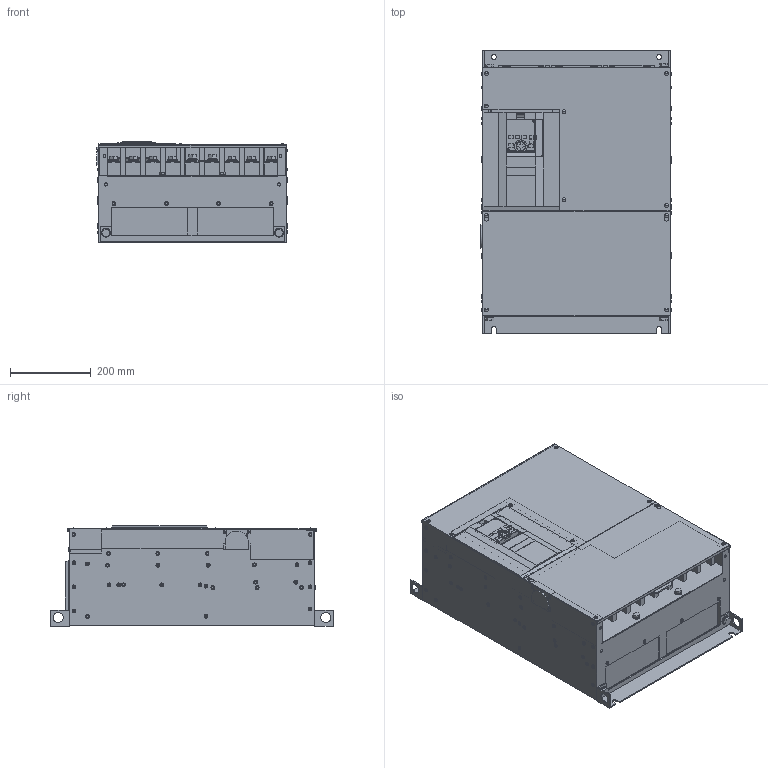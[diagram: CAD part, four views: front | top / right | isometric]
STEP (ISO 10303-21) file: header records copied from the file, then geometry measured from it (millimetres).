
FILE_DESCRIPTION((''),'2;1');
FILE_NAME('3D-INV-A8-01_14_ASM','2014-01-24T',('UJ56049'),(''),'PRO/ENGINEER BY PARAMETRIC TECHNOLOGY CORPORATION, 2011490','PRO/ENGINEER BY PARAMETRIC TECHNOLOGY CORPORATION, 2011490','');
FILE_SCHEMA(('CONFIG_CONTROL_DESIGN'));
Products named in the file (31): 3D-BASE-A8-01_14; 3D-WAKU-A8-01_14_ASM; 3D-ASHI_UPR-A8-01_14; 3D-BOLT-SW-PW-M10X25_; 3D-ASHI_UPR-BOLT-A8-01_14_ASM; 3D-ASHI_LWR-A8-01_14; 3D-ASHI_LWR-BOLT-A8-01_14_ASM; 3D-BUSH-A8; 3D-BUSH-A8_ASM; 3D-FAN-120; 3D-FAN_ASSY-A8-01_14_ASM; 3D-FAN_COV-A8; 3D-FAN_COV-A8-01_14_ASM; 3D-BOLT-SW-PW-P-M8X16_; 3D-TE_NEJI-M4X8_; 3D-TE_COV-R1S1_; 3D-TE_ASSY-R1S1_ASM; 3D-TA-A8; 3D-A8-TA_ASM; 3D-DOT-TAN_P_P-A8-01_14; 3D-BOLT-SW-PW-M12X30_; 3D-TE_BOLT-A8-01_14_ASM; 3D-CA_COVER-A8; 3D-DU_ASSY-A8; 3D-IF_COV-A80; 3D-SC-PN-BD-M4X10-BZN-A8; 3D-CA_COV-A8_ASM; 3D-COV_LWR-A8-01_14; 3D-COV_LWR-NEJI-A8-01_14; 3D-COV_LWR-NEJI-A8-01_14_ASM; 3D-INV-A8-01_14_ASM
Assembly tree (50 placements, depth 3):
  3D-INV-A8-01_14_ASM
    3D-WAKU-A8-01_14_ASM
      3D-BASE-A8-01_14
    3D-ASHI_UPR-A8-01_14
    3D-ASHI_UPR-BOLT-A8-01_14_ASM
      3D-BOLT-SW-PW-M10X25_  x2
    3D-ASHI_LWR-A8-01_14
    3D-ASHI_LWR-BOLT-A8-01_14_ASM
      3D-BOLT-SW-PW-M10X25_  x2
    3D-BUSH-A8_ASM
      3D-BUSH-A8
    3D-FAN_ASSY-A8-01_14_ASM
      3D-FAN-120  x3
    3D-FAN_COV-A8-01_14_ASM
      3D-FAN_COV-A8  x3
    3D-BOLT-SW-PW-P-M8X16_  x2
    3D-TE_ASSY-R1S1_ASM
      3D-TE_NEJI-M4X8_  x4
      3D-TE_COV-R1S1_
    3D-A8-TA_ASM
      3D-TA-A8
    3D-DOT-TAN_P_P-A8-01_14
    3D-TE_BOLT-A8-01_14_ASM
      3D-BOLT-SW-PW-M12X30_  x9
    3D-CA_COV-A8_ASM
      3D-CA_COVER-A8
      3D-DU_ASSY-A8
      3D-IF_COV-A80
      3D-SC-PN-BD-M4X10-BZN-A8  x2
    3D-COV_LWR-A8-01_14
    3D-COV_LWR-NEJI-A8-01_14_ASM
      3D-COV_LWR-NEJI-A8-01_14
Bounding box: 471.7 x 700 x 250.3 mm (x, y, z)
Volume: 58800606.1 mm3; surface area: 2975048.1 mm2
Topology: 43 solids, 68 shells, 4968 faces, 13188 edges, 8581 vertices
Faces by surface type: plane 3254, cylinder 1320, torus 220, sphere 96, cone 78
Entity records: 118786 total; most frequent: DIRECTION 20624, CARTESIAN_POINT 20537, ORIENTED_EDGE 19916, EDGE_CURVE 9958, VECTOR 7026, LINE 7026, AXIS2_PLACEMENT_3D 6799, VERTEX_POINT 6532
